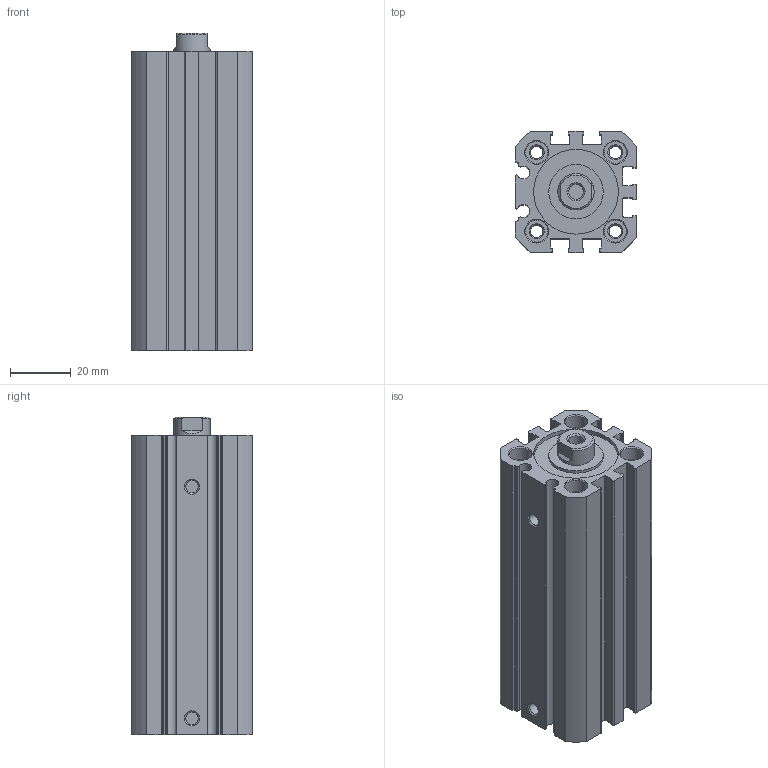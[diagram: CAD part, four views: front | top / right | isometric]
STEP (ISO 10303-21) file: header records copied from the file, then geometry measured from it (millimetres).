
FILE_DESCRIPTION( ( 'STEP AP214' ), '1' );
FILE_NAME( 'C:/Users/EMC02301/Desktop/RU0638 SF图纸/SF25X60-S.stp', '2026-07-24T08:36:57', ( 'License CC BY-ND 4.0' ), ( 'CADENAS' ), ' ', 'PARTsolutions', ' ' );
FILE_SCHEMA( ( 'AUTOMOTIVE_DESIGN { 1 0 10303 214 1 1 1 1 }' ) );
Length unit declared in the file: millimetre
Products named in the file (3): SF25X60-S()(00); _SF25X60()(_body) ; _SF25X60(rod-0)
Assembly tree (2 placements, depth 2):
  SF25X60-S()(00)
    _SF25X60()(_body) 
    _SF25X60(rod-0)
Bounding box: 40 x 40 x 105 mm (x, y, z)
Volume: 103880 mm3; surface area: 43124.8 mm2
Topology: 2 solids, 2 shells, 194 faces, 499 edges, 326 vertices
Faces by surface type: plane 87, cylinder 84, cone 23
Full cylindrical faces by diameter (mm): 4.134 x6, 4.917 x1, 7.3 x8, 12 x2, 18 x1, 25 x3, 28 x1
Entity records: 7330 total; most frequent: DIRECTION 1038, CARTESIAN_POINT 987, ORIENTED_EDGE 908, EDGE_CURVE 454, AXIS2_PLACEMENT_3D 391, VERTEX_POINT 324, EDGE_LOOP 262, LINE 256
